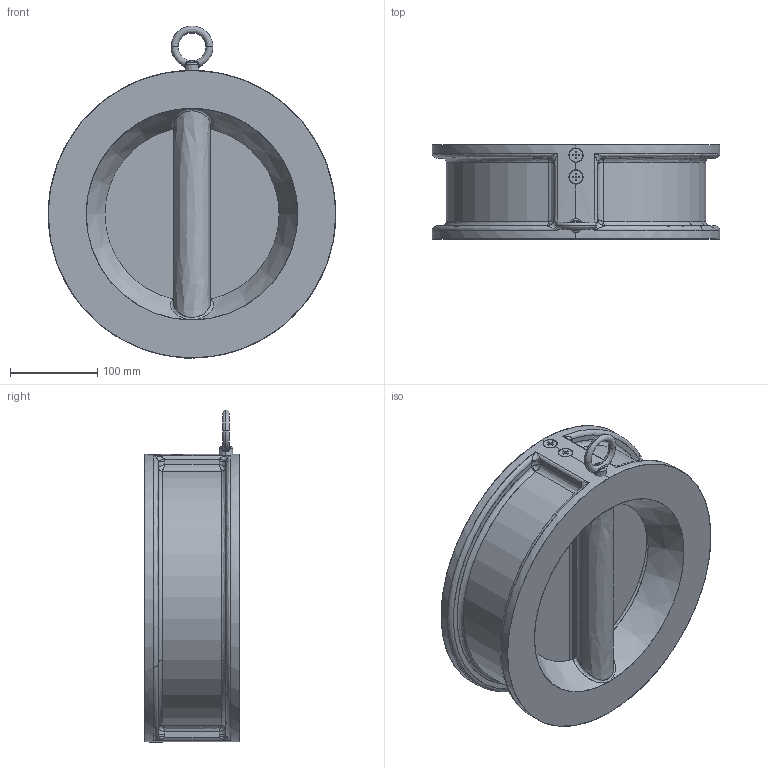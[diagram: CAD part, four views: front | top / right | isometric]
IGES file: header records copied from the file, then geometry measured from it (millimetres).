
Start section: SolidWorks IGES file using analytic representation for surfaces
Global section: file name: C:\Users\Administrator\Desktop\temp\00.IGS; native system: SolidWorks 2015; preprocessor: SolidWorks 2015; author: Administrator; date: 170402.175312; units: millimetre
Bounding box: 330 x 108 x 381.04 mm (x, y, z)
Surface area: 556457.4 mm2 (no closed solid volume)
Topology: 0 solids, 0 shells, 506 faces, 5921 edges, 5895 vertices
Faces by surface type: bspline 310, revolution 196
